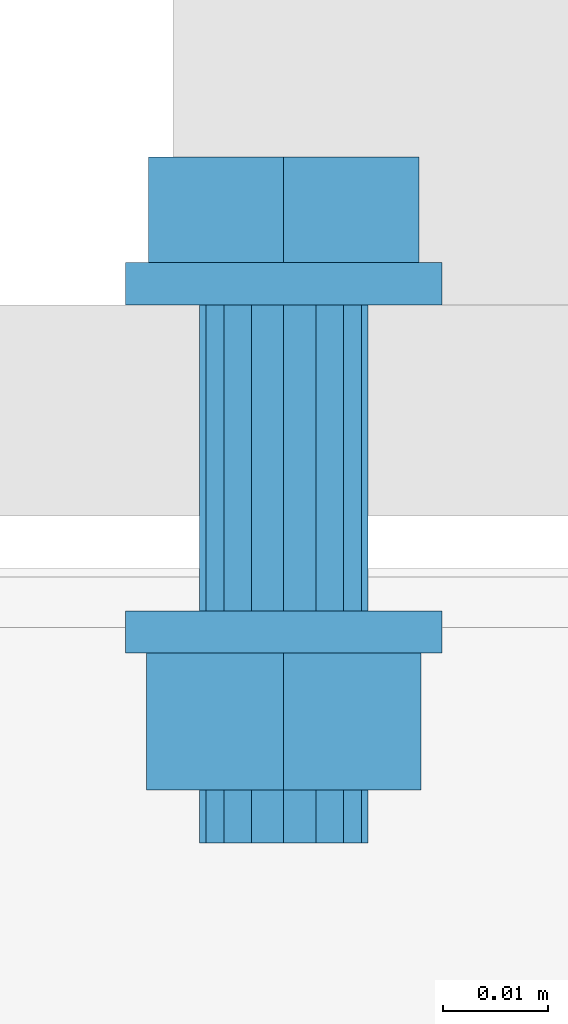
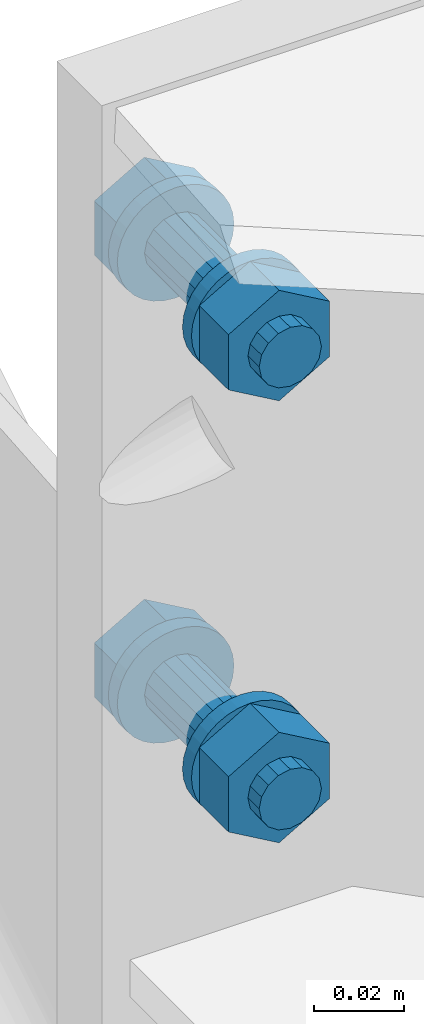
# One storey, part 14 of 21: 2 mechanical fasteners.
"""IFC4X3_ADD2 building model written with IfcOpenShell, lengths in millimetres."""

from ifc_helpers import new_model, entity, si_unit, converted_unit, derived_unit, direction, frame, origin, place, context, project, spatial, faceted_brep, element, save


model = new_model("IFC4X3_ADD2")

# Units and contexts
model_context = context("Model", 3, precision=0.01, world=origin(), true_north=direction((6.123233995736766e-17, 1.0)))
plan_context = context("Plan", 3, precision=0.01, world=origin(), true_north=direction((6.123233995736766e-17, 1.0)))
ifc_project = project(units=[si_unit("LENGTHUNIT", "METRE", prefix="MILLI"), converted_unit("PLANEANGLEUNIT", "DEGREE", entity("IfcPlaneAngleMeasure", 0.017453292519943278), si_unit("PLANEANGLEUNIT", "RADIAN"), dimensions=[0, 0, 0, 0, 0, 0, 0]), si_unit("AREAUNIT", "SQUARE_METRE"), si_unit("VOLUMEUNIT", "CUBIC_METRE"), derived_unit("THERMALTRANSMITTANCEUNIT", [(si_unit("MASSUNIT", "GRAM", prefix="KILO"), 1), (si_unit("THERMODYNAMICTEMPERATUREUNIT", "KELVIN"), -1), (si_unit("TIMEUNIT", "SECOND"), -3)]), derived_unit("USERDEFINED", [(si_unit("MASSUNIT", "GRAM", prefix="KILO"), 1), (si_unit("THERMODYNAMICTEMPERATUREUNIT", "KELVIN"), -1), (si_unit("TIMEUNIT", "SECOND"), -2)]), derived_unit("THERMALRESISTANCEUNIT", [(si_unit("MASSUNIT", "GRAM", prefix="KILO"), -1), (si_unit("TIMEUNIT", "SECOND"), 3), (si_unit("THERMODYNAMICTEMPERATUREUNIT", "KELVIN"), 1)]), si_unit("MASSUNIT", "GRAM", prefix="KILO"), derived_unit("MOMENTOFINERTIAUNIT", [(si_unit("LENGTHUNIT", "METRE"), 4)]), derived_unit("LINEARFORCEUNIT", [(si_unit("MASSUNIT", "GRAM", prefix="KILO"), 1), (si_unit("TIMEUNIT", "SECOND"), -2)]), derived_unit("WARPINGCONSTANTUNIT", [(si_unit("LENGTHUNIT", "METRE"), 6)]), si_unit("PRESSUREUNIT", "PASCAL"), derived_unit("MASSDENSITYUNIT", [(si_unit("MASSUNIT", "GRAM", prefix="KILO"), 1), (si_unit("LENGTHUNIT", "METRE"), -3)]), derived_unit("MODULUSOFELASTICITYUNIT", [(si_unit("MASSUNIT", "GRAM", prefix="KILO"), 1), (si_unit("TIMEUNIT", "SECOND"), -2), (si_unit("LENGTHUNIT", "METRE"), -1)]), derived_unit("THERMALEXPANSIONCOEFFICIENTUNIT", [(si_unit("THERMODYNAMICTEMPERATUREUNIT", "KELVIN"), -1)]), derived_unit("VAPORPERMEABILITYUNIT", [(si_unit("LENGTHUNIT", "METRE"), -1), (si_unit("TIMEUNIT", "SECOND"), 1)]), derived_unit("USERDEFINED", [(si_unit("MASSUNIT", "GRAM", prefix="KILO"), 1), (si_unit("TIMEUNIT", "SECOND"), -3), (si_unit("LENGTHUNIT", "METRE"), 3), (si_unit("ELECTRICCURRENTUNIT", "AMPERE"), -2)]), derived_unit("SPECIFICHEATCAPACITYUNIT", [(si_unit("THERMODYNAMICTEMPERATUREUNIT", "KELVIN"), -1), (si_unit("TIMEUNIT", "SECOND"), -2), (si_unit("LENGTHUNIT", "METRE"), 2)]), derived_unit("THERMALCONDUCTANCEUNIT", [(si_unit("MASSUNIT", "GRAM", prefix="KILO"), 1), (si_unit("THERMODYNAMICTEMPERATUREUNIT", "KELVIN"), -1), (si_unit("TIMEUNIT", "SECOND"), -3), (si_unit("LENGTHUNIT", "METRE"), 1)])], contexts=[model_context, plan_context])

# Site, building, storey
site_placement = place(None, origin())
site = spatial("IfcSite", under=ifc_project, at=site_placement, Name="Default", CompositionType="ELEMENT")
building_placement = place(site_placement, origin())
building = spatial("IfcBuilding", under=site, at=building_placement, Name="Complex structure", CompositionType="ELEMENT")
storey_placement = place(building_placement, frame((0.0, 0.0, 3000.0)))
storey = spatial("IfcBuildingStorey", under=building, at=storey_placement, Name="Level 01", CompositionType="ELEMENT", Elevation=3000.0)

# Mechanical fasteners
mechanical_fastener_1_placement = place(storey_placement, frame((0.0, 0.0, -3000.0)))
element("IfcMechanicalFastener", 1, at=mechanical_fastener_1_placement, inside=storey, ObjectType="Bolt#1", NominalDiameter=16.0, NominalLength=55.0, context=model_context, shape_type="Brep", body=[
    faceted_brep([(-5180.026350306, -1182.866703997, 3943.0), (-5180.026350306, -1186.866703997, 3943.0), (-5180.3145711, -1186.866703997, 3940.07364517), (-5180.3145711, -1182.866703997, 3940.07364517), (-5181.168157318, -1186.866703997, 3937.259748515), (-5181.168157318, -1182.866703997, 3937.259748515), (-5182.554306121, -1186.866703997, 3934.666446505), (-5182.554306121, -1182.866703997, 3934.666446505), (-5184.419748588, -1186.866703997, 3932.393398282), (-5184.419748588, -1182.866703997, 3932.393398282), (-5186.692796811, -1186.866703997, 3930.527955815), (-5186.692796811, -1182.866703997, 3930.527955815), (-5189.28609882, -1186.866703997, 3929.141807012), (-5189.28609882, -1182.866703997, 3929.141807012), (-5192.099995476, -1186.866703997, 3928.288220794), (-5192.099995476, -1182.866703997, 3928.288220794), (-5195.026350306, -1186.866703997, 3928.0), (-5195.026350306, -1182.866703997, 3928.0), (-5197.952705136, -1186.866703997, 3928.288220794), (-5197.952705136, -1182.866703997, 3928.288220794), (-5200.766601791, -1186.866703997, 3929.141807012), (-5200.766601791, -1182.866703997, 3929.141807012), (-5203.359903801, -1186.866703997, 3930.527955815), (-5203.359903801, -1182.866703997, 3930.527955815), (-5205.632952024, -1186.866703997, 3932.393398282), (-5205.632952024, -1182.866703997, 3932.393398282), (-5207.49839449, -1186.866703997, 3934.666446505), (-5207.49839449, -1182.866703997, 3934.666446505), (-5208.884543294, -1186.866703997, 3937.259748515), (-5208.884543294, -1182.866703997, 3937.259748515), (-5209.738129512, -1186.866703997, 3940.07364517), (-5209.738129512, -1182.866703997, 3940.07364517), (-5210.026350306, -1186.866703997, 3943.0), (-5210.026350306, -1182.866703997, 3943.0), (-5209.738129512, -1186.866703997, 3945.92635483), (-5209.738129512, -1182.866703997, 3945.92635483), (-5208.884543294, -1186.866703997, 3948.740251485), (-5208.884543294, -1182.866703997, 3948.740251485), (-5207.49839449, -1186.866703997, 3951.333553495), (-5207.49839449, -1182.866703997, 3951.333553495), (-5205.632952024, -1186.866703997, 3953.606601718), (-5205.632952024, -1182.866703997, 3953.606601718), (-5203.359903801, -1186.866703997, 3955.472044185), (-5203.359903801, -1182.866703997, 3955.472044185), (-5200.766601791, -1186.866703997, 3956.858192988), (-5200.766601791, -1182.866703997, 3956.858192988), (-5197.952705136, -1186.866703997, 3957.711779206), (-5197.952705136, -1182.866703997, 3957.711779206), (-5195.026350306, -1186.866703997, 3958.0), (-5195.026350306, -1182.866703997, 3958.0), (-5192.099995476, -1186.866703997, 3957.711779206), (-5192.099995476, -1182.866703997, 3957.711779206), (-5189.28609882, -1186.866703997, 3956.858192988), (-5189.28609882, -1182.866703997, 3956.858192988), (-5186.692796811, -1186.866703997, 3955.472044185), (-5186.692796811, -1182.866703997, 3955.472044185), (-5184.419748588, -1186.866703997, 3953.606601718), (-5184.419748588, -1182.866703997, 3953.606601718), (-5182.554306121, -1186.866703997, 3951.333553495), (-5182.554306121, -1182.866703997, 3951.333553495), (-5181.168157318, -1186.866703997, 3948.740251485), (-5181.168157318, -1182.866703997, 3948.740251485), (-5180.3145711, -1186.866703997, 3945.92635483), (-5180.3145711, -1182.866703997, 3945.92635483)], [[[0, 1, 2, 3]], [[3, 2, 4, 5]], [[5, 4, 6, 7]], [[7, 6, 8, 9]], [[9, 8, 10, 11]], [[11, 10, 12, 13]], [[13, 12, 14, 15]], [[15, 14, 16, 17]], [[17, 16, 18, 19]], [[19, 18, 20, 21]], [[21, 20, 22, 23]], [[23, 22, 24, 25]], [[25, 24, 26, 27]], [[27, 26, 28, 29]], [[29, 28, 30, 31]], [[31, 30, 32, 33]], [[33, 32, 34, 35]], [[35, 34, 36, 37]], [[37, 36, 38, 39]], [[39, 38, 40, 41]], [[41, 40, 42, 43]], [[43, 42, 44, 45]], [[45, 44, 46, 47]], [[47, 46, 48, 49]], [[49, 48, 50, 51]], [[51, 50, 52, 53]], [[53, 52, 54, 55]], [[55, 54, 56, 57]], [[57, 56, 58, 59]], [[59, 58, 60, 61]], [[61, 60, 62, 63]], [[63, 62, 1, 0]], [[0, 3, 5, 7, 9, 11, 13, 15, 17, 19, 21, 23, 25, 27, 29, 31, 33, 35, 37, 39, 41, 43, 45, 47, 49, 51, 53, 55, 57, 59, 61, 63]], [[1, 62, 60, 58, 56, 54, 52, 50, 48, 46, 44, 42, 40, 38, 36, 34, 32, 30, 28, 26, 24, 22, 20, 18, 16, 14, 12, 10, 8, 6, 4, 2]]]),
    faceted_brep([(-5207.826205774, -1182.866703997, 3935.61), (-5207.826205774, -1172.866703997, 3935.61), (-5195.026350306, -1172.866703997, 3928.22), (-5195.026350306, -1182.866703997, 3928.22), (-5182.226494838, -1172.866703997, 3935.61), (-5182.226494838, -1182.866703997, 3935.61), (-5182.226494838, -1172.866703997, 3950.39), (-5182.226494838, -1182.866703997, 3950.39), (-5195.026350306, -1172.866703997, 3957.78), (-5195.026350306, -1182.866703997, 3957.78), (-5207.826205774, -1172.866703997, 3950.39), (-5207.826205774, -1182.866703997, 3950.39)], [[[0, 1, 2, 3]], [[3, 2, 4, 5]], [[5, 4, 6, 7]], [[7, 6, 8, 9]], [[9, 8, 10, 11]], [[11, 10, 1, 0]], [[4, 2, 1, 10, 8, 6]], [[0, 3, 5, 7, 9, 11]]]),
    faceted_brep([(-5187.026350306, -1186.866703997, 3943.0), (-5187.026350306, -1215.866703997, 3943.0), (-5187.635314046, -1215.866703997, 3939.938532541), (-5187.635314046, -1186.866703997, 3939.938532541), (-5189.369496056, -1215.866703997, 3937.343145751), (-5189.369496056, -1186.866703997, 3937.343145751), (-5191.964882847, -1215.866703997, 3935.60896374), (-5191.964882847, -1186.866703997, 3935.60896374), (-5195.026350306, -1215.866703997, 3935.0), (-5195.026350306, -1186.866703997, 3935.0), (-5198.087817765, -1215.866703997, 3935.60896374), (-5198.087817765, -1186.866703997, 3935.60896374), (-5200.683204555, -1215.866703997, 3937.343145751), (-5200.683204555, -1186.866703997, 3937.343145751), (-5202.417386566, -1215.866703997, 3939.938532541), (-5202.417386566, -1186.866703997, 3939.938532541), (-5203.026350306, -1215.866703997, 3943.0), (-5203.026350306, -1186.866703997, 3943.0), (-5202.417386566, -1215.866703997, 3946.061467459), (-5202.417386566, -1186.866703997, 3946.061467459), (-5200.683204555, -1215.866703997, 3948.656854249), (-5200.683204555, -1186.866703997, 3948.656854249), (-5198.087817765, -1215.866703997, 3950.39103626), (-5198.087817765, -1186.866703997, 3950.39103626), (-5195.026350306, -1215.866703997, 3951.0), (-5195.026350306, -1186.866703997, 3951.0), (-5191.964882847, -1215.866703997, 3950.39103626), (-5191.964882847, -1186.866703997, 3950.39103626), (-5189.369496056, -1215.866703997, 3948.656854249), (-5189.369496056, -1186.866703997, 3948.656854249), (-5187.635314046, -1215.866703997, 3946.061467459), (-5187.635314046, -1186.866703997, 3946.061467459)], [[[0, 1, 2, 3]], [[3, 2, 4, 5]], [[5, 4, 6, 7]], [[7, 6, 8, 9]], [[9, 8, 10, 11]], [[11, 10, 12, 13]], [[13, 12, 14, 15]], [[15, 14, 16, 17]], [[17, 16, 18, 19]], [[19, 18, 20, 21]], [[21, 20, 22, 23]], [[23, 22, 24, 25]], [[25, 24, 26, 27]], [[27, 26, 28, 29]], [[29, 28, 30, 31]], [[31, 30, 1, 0]], [[0, 3, 5, 7, 9, 11, 13, 15, 17, 19, 21, 23, 25, 27, 29, 31]], [[1, 30, 28, 26, 24, 22, 20, 18, 16, 14, 12, 10, 8, 6, 4, 2]]]),
    faceted_brep([(-5180.026350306, -1215.866703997, 3943.0), (-5180.026350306, -1219.866703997, 3943.0), (-5180.3145711, -1219.866703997, 3940.07364517), (-5180.3145711, -1215.866703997, 3940.07364517), (-5181.168157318, -1219.866703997, 3937.259748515), (-5181.168157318, -1215.866703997, 3937.259748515), (-5182.554306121, -1219.866703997, 3934.666446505), (-5182.554306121, -1215.866703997, 3934.666446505), (-5184.419748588, -1219.866703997, 3932.393398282), (-5184.419748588, -1215.866703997, 3932.393398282), (-5186.692796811, -1219.866703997, 3930.527955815), (-5186.692796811, -1215.866703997, 3930.527955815), (-5189.28609882, -1219.866703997, 3929.141807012), (-5189.28609882, -1215.866703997, 3929.141807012), (-5192.099995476, -1219.866703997, 3928.288220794), (-5192.099995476, -1215.866703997, 3928.288220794), (-5195.026350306, -1219.866703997, 3928.0), (-5195.026350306, -1215.866703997, 3928.0), (-5197.952705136, -1219.866703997, 3928.288220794), (-5197.952705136, -1215.866703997, 3928.288220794), (-5200.766601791, -1219.866703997, 3929.141807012), (-5200.766601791, -1215.866703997, 3929.141807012), (-5203.359903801, -1219.866703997, 3930.527955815), (-5203.359903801, -1215.866703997, 3930.527955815), (-5205.632952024, -1219.866703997, 3932.393398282), (-5205.632952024, -1215.866703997, 3932.393398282), (-5207.49839449, -1219.866703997, 3934.666446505), (-5207.49839449, -1215.866703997, 3934.666446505), (-5208.884543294, -1219.866703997, 3937.259748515), (-5208.884543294, -1215.866703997, 3937.259748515), (-5209.738129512, -1219.866703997, 3940.07364517), (-5209.738129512, -1215.866703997, 3940.07364517), (-5210.026350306, -1219.866703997, 3943.0), (-5210.026350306, -1215.866703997, 3943.0), (-5209.738129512, -1219.866703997, 3945.92635483), (-5209.738129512, -1215.866703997, 3945.92635483), (-5208.884543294, -1219.866703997, 3948.740251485), (-5208.884543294, -1215.866703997, 3948.740251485), (-5207.49839449, -1219.866703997, 3951.333553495), (-5207.49839449, -1215.866703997, 3951.333553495), (-5205.632952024, -1219.866703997, 3953.606601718), (-5205.632952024, -1215.866703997, 3953.606601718), (-5203.359903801, -1219.866703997, 3955.472044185), (-5203.359903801, -1215.866703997, 3955.472044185), (-5200.766601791, -1219.866703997, 3956.858192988), (-5200.766601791, -1215.866703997, 3956.858192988), (-5197.952705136, -1219.866703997, 3957.711779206), (-5197.952705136, -1215.866703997, 3957.711779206), (-5195.026350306, -1219.866703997, 3958.0), (-5195.026350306, -1215.866703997, 3958.0), (-5192.099995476, -1219.866703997, 3957.711779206), (-5192.099995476, -1215.866703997, 3957.711779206), (-5189.28609882, -1219.866703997, 3956.858192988), (-5189.28609882, -1215.866703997, 3956.858192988), (-5186.692796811, -1219.866703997, 3955.472044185), (-5186.692796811, -1215.866703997, 3955.472044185), (-5184.419748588, -1219.866703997, 3953.606601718), (-5184.419748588, -1215.866703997, 3953.606601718), (-5182.554306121, -1219.866703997, 3951.333553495), (-5182.554306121, -1215.866703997, 3951.333553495), (-5181.168157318, -1219.866703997, 3948.740251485), (-5181.168157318, -1215.866703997, 3948.740251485), (-5180.3145711, -1219.866703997, 3945.92635483), (-5180.3145711, -1215.866703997, 3945.92635483)], [[[0, 1, 2, 3]], [[3, 2, 4, 5]], [[5, 4, 6, 7]], [[7, 6, 8, 9]], [[9, 8, 10, 11]], [[11, 10, 12, 13]], [[13, 12, 14, 15]], [[15, 14, 16, 17]], [[17, 16, 18, 19]], [[19, 18, 20, 21]], [[21, 20, 22, 23]], [[23, 22, 24, 25]], [[25, 24, 26, 27]], [[27, 26, 28, 29]], [[29, 28, 30, 31]], [[31, 30, 32, 33]], [[33, 32, 34, 35]], [[35, 34, 36, 37]], [[37, 36, 38, 39]], [[39, 38, 40, 41]], [[41, 40, 42, 43]], [[43, 42, 44, 45]], [[45, 44, 46, 47]], [[47, 46, 48, 49]], [[49, 48, 50, 51]], [[51, 50, 52, 53]], [[53, 52, 54, 55]], [[55, 54, 56, 57]], [[57, 56, 58, 59]], [[59, 58, 60, 61]], [[61, 60, 62, 63]], [[63, 62, 1, 0]], [[0, 3, 5, 7, 9, 11, 13, 15, 17, 19, 21, 23, 25, 27, 29, 31, 33, 35, 37, 39, 41, 43, 45, 47, 49, 51, 53, 55, 57, 59, 61, 63]], [[1, 62, 60, 58, 56, 54, 52, 50, 48, 46, 44, 42, 40, 38, 36, 34, 32, 30, 28, 26, 24, 22, 20, 18, 16, 14, 12, 10, 8, 6, 4, 2]]]),
    faceted_brep([(-5208.016731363, -1232.866703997, 3935.5), (-5208.016731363, -1219.866703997, 3935.5), (-5195.026350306, -1219.866703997, 3928.0), (-5195.026350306, -1232.866703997, 3928.0), (-5182.035969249, -1219.866703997, 3935.5), (-5182.035969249, -1232.866703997, 3935.5), (-5182.035969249, -1219.866703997, 3950.5), (-5182.035969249, -1232.866703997, 3950.5), (-5195.026350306, -1219.866703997, 3958.0), (-5195.026350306, -1232.866703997, 3958.0), (-5208.016731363, -1219.866703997, 3950.5), (-5208.016731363, -1232.866703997, 3950.5)], [[[0, 1, 2, 3]], [[3, 2, 4, 5]], [[5, 4, 6, 7]], [[7, 6, 8, 9]], [[9, 8, 10, 11]], [[11, 10, 1, 0]], [[4, 2, 1, 10, 8, 6]], [[0, 3, 5, 7, 9, 11]]]),
    faceted_brep([(-5187.026350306, -1232.866703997, 3943.0), (-5187.026350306, -1237.866703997, 3943.0), (-5187.635314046, -1237.866703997, 3939.938532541), (-5187.635314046, -1232.866703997, 3939.938532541), (-5189.369496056, -1237.866703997, 3937.343145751), (-5189.369496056, -1232.866703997, 3937.343145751), (-5191.964882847, -1237.866703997, 3935.60896374), (-5191.964882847, -1232.866703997, 3935.60896374), (-5195.026350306, -1237.866703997, 3935.0), (-5195.026350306, -1232.866703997, 3935.0), (-5198.087817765, -1237.866703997, 3935.60896374), (-5198.087817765, -1232.866703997, 3935.60896374), (-5200.683204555, -1237.866703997, 3937.343145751), (-5200.683204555, -1232.866703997, 3937.343145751), (-5202.417386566, -1237.866703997, 3939.938532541), (-5202.417386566, -1232.866703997, 3939.938532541), (-5203.026350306, -1237.866703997, 3943.0), (-5203.026350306, -1232.866703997, 3943.0), (-5202.417386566, -1237.866703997, 3946.061467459), (-5202.417386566, -1232.866703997, 3946.061467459), (-5200.683204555, -1237.866703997, 3948.656854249), (-5200.683204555, -1232.866703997, 3948.656854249), (-5198.087817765, -1237.866703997, 3950.39103626), (-5198.087817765, -1232.866703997, 3950.39103626), (-5195.026350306, -1237.866703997, 3951.0), (-5195.026350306, -1232.866703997, 3951.0), (-5191.964882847, -1237.866703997, 3950.39103626), (-5191.964882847, -1232.866703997, 3950.39103626), (-5189.369496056, -1237.866703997, 3948.656854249), (-5189.369496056, -1232.866703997, 3948.656854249), (-5187.635314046, -1237.866703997, 3946.061467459), (-5187.635314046, -1232.866703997, 3946.061467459)], [[[0, 1, 2, 3]], [[3, 2, 4, 5]], [[5, 4, 6, 7]], [[7, 6, 8, 9]], [[9, 8, 10, 11]], [[11, 10, 12, 13]], [[13, 12, 14, 15]], [[15, 14, 16, 17]], [[17, 16, 18, 19]], [[19, 18, 20, 21]], [[21, 20, 22, 23]], [[23, 22, 24, 25]], [[25, 24, 26, 27]], [[27, 26, 28, 29]], [[29, 28, 30, 31]], [[31, 30, 1, 0]], [[0, 3, 5, 7, 9, 11, 13, 15, 17, 19, 21, 23, 25, 27, 29, 31]], [[1, 30, 28, 26, 24, 22, 20, 18, 16, 14, 12, 10, 8, 6, 4, 2]]]),
])
mechanical_fastener_2_placement = place(storey_placement, frame((0.0, 0.0, -3000.0)))
element("IfcMechanicalFastener", 2, at=mechanical_fastener_2_placement, inside=storey, ObjectType="Bolt#2", NominalDiameter=16.0, NominalLength=55.0, context=model_context, shape_type="Brep", body=[
    faceted_brep([(-5180.026350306, -1182.866703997, 3823.0), (-5180.026350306, -1186.866703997, 3823.0), (-5180.3145711, -1186.866703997, 3820.07364517), (-5180.3145711, -1182.866703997, 3820.07364517), (-5181.168157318, -1186.866703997, 3817.259748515), (-5181.168157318, -1182.866703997, 3817.259748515), (-5182.554306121, -1186.866703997, 3814.666446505), (-5182.554306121, -1182.866703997, 3814.666446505), (-5184.419748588, -1186.866703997, 3812.393398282), (-5184.419748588, -1182.866703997, 3812.393398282), (-5186.692796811, -1186.866703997, 3810.527955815), (-5186.692796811, -1182.866703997, 3810.527955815), (-5189.28609882, -1186.866703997, 3809.141807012), (-5189.28609882, -1182.866703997, 3809.141807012), (-5192.099995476, -1186.866703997, 3808.288220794), (-5192.099995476, -1182.866703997, 3808.288220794), (-5195.026350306, -1186.866703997, 3808.0), (-5195.026350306, -1182.866703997, 3808.0), (-5197.952705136, -1186.866703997, 3808.288220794), (-5197.952705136, -1182.866703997, 3808.288220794), (-5200.766601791, -1186.866703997, 3809.141807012), (-5200.766601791, -1182.866703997, 3809.141807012), (-5203.359903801, -1186.866703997, 3810.527955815), (-5203.359903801, -1182.866703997, 3810.527955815), (-5205.632952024, -1186.866703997, 3812.393398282), (-5205.632952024, -1182.866703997, 3812.393398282), (-5207.49839449, -1186.866703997, 3814.666446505), (-5207.49839449, -1182.866703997, 3814.666446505), (-5208.884543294, -1186.866703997, 3817.259748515), (-5208.884543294, -1182.866703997, 3817.259748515), (-5209.738129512, -1186.866703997, 3820.07364517), (-5209.738129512, -1182.866703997, 3820.07364517), (-5210.026350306, -1186.866703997, 3823.0), (-5210.026350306, -1182.866703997, 3823.0), (-5209.738129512, -1186.866703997, 3825.92635483), (-5209.738129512, -1182.866703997, 3825.92635483), (-5208.884543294, -1186.866703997, 3828.740251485), (-5208.884543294, -1182.866703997, 3828.740251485), (-5207.49839449, -1186.866703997, 3831.333553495), (-5207.49839449, -1182.866703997, 3831.333553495), (-5205.632952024, -1186.866703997, 3833.606601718), (-5205.632952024, -1182.866703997, 3833.606601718), (-5203.359903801, -1186.866703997, 3835.472044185), (-5203.359903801, -1182.866703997, 3835.472044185), (-5200.766601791, -1186.866703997, 3836.858192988), (-5200.766601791, -1182.866703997, 3836.858192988), (-5197.952705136, -1186.866703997, 3837.711779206), (-5197.952705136, -1182.866703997, 3837.711779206), (-5195.026350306, -1186.866703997, 3838.0), (-5195.026350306, -1182.866703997, 3838.0), (-5192.099995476, -1186.866703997, 3837.711779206), (-5192.099995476, -1182.866703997, 3837.711779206), (-5189.28609882, -1186.866703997, 3836.858192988), (-5189.28609882, -1182.866703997, 3836.858192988), (-5186.692796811, -1186.866703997, 3835.472044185), (-5186.692796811, -1182.866703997, 3835.472044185), (-5184.419748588, -1186.866703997, 3833.606601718), (-5184.419748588, -1182.866703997, 3833.606601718), (-5182.554306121, -1186.866703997, 3831.333553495), (-5182.554306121, -1182.866703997, 3831.333553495), (-5181.168157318, -1186.866703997, 3828.740251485), (-5181.168157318, -1182.866703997, 3828.740251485), (-5180.3145711, -1186.866703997, 3825.92635483), (-5180.3145711, -1182.866703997, 3825.92635483)], [[[0, 1, 2, 3]], [[3, 2, 4, 5]], [[5, 4, 6, 7]], [[7, 6, 8, 9]], [[9, 8, 10, 11]], [[11, 10, 12, 13]], [[13, 12, 14, 15]], [[15, 14, 16, 17]], [[17, 16, 18, 19]], [[19, 18, 20, 21]], [[21, 20, 22, 23]], [[23, 22, 24, 25]], [[25, 24, 26, 27]], [[27, 26, 28, 29]], [[29, 28, 30, 31]], [[31, 30, 32, 33]], [[33, 32, 34, 35]], [[35, 34, 36, 37]], [[37, 36, 38, 39]], [[39, 38, 40, 41]], [[41, 40, 42, 43]], [[43, 42, 44, 45]], [[45, 44, 46, 47]], [[47, 46, 48, 49]], [[49, 48, 50, 51]], [[51, 50, 52, 53]], [[53, 52, 54, 55]], [[55, 54, 56, 57]], [[57, 56, 58, 59]], [[59, 58, 60, 61]], [[61, 60, 62, 63]], [[63, 62, 1, 0]], [[0, 3, 5, 7, 9, 11, 13, 15, 17, 19, 21, 23, 25, 27, 29, 31, 33, 35, 37, 39, 41, 43, 45, 47, 49, 51, 53, 55, 57, 59, 61, 63]], [[1, 62, 60, 58, 56, 54, 52, 50, 48, 46, 44, 42, 40, 38, 36, 34, 32, 30, 28, 26, 24, 22, 20, 18, 16, 14, 12, 10, 8, 6, 4, 2]]]),
    faceted_brep([(-5207.826205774, -1182.866703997, 3815.61), (-5207.826205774, -1172.866703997, 3815.61), (-5195.026350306, -1172.866703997, 3808.22), (-5195.026350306, -1182.866703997, 3808.22), (-5182.226494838, -1172.866703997, 3815.61), (-5182.226494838, -1182.866703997, 3815.61), (-5182.226494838, -1172.866703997, 3830.39), (-5182.226494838, -1182.866703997, 3830.39), (-5195.026350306, -1172.866703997, 3837.78), (-5195.026350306, -1182.866703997, 3837.78), (-5207.826205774, -1172.866703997, 3830.39), (-5207.826205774, -1182.866703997, 3830.39)], [[[0, 1, 2, 3]], [[3, 2, 4, 5]], [[5, 4, 6, 7]], [[7, 6, 8, 9]], [[9, 8, 10, 11]], [[11, 10, 1, 0]], [[4, 2, 1, 10, 8, 6]], [[0, 3, 5, 7, 9, 11]]]),
    faceted_brep([(-5187.026350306, -1186.866703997, 3823.0), (-5187.026350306, -1215.866703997, 3823.0), (-5187.635314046, -1215.866703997, 3819.938532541), (-5187.635314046, -1186.866703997, 3819.938532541), (-5189.369496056, -1215.866703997, 3817.343145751), (-5189.369496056, -1186.866703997, 3817.343145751), (-5191.964882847, -1215.866703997, 3815.60896374), (-5191.964882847, -1186.866703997, 3815.60896374), (-5195.026350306, -1215.866703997, 3815.0), (-5195.026350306, -1186.866703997, 3815.0), (-5198.087817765, -1215.866703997, 3815.60896374), (-5198.087817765, -1186.866703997, 3815.60896374), (-5200.683204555, -1215.866703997, 3817.343145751), (-5200.683204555, -1186.866703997, 3817.343145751), (-5202.417386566, -1215.866703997, 3819.938532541), (-5202.417386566, -1186.866703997, 3819.938532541), (-5203.026350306, -1215.866703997, 3823.0), (-5203.026350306, -1186.866703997, 3823.0), (-5202.417386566, -1215.866703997, 3826.061467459), (-5202.417386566, -1186.866703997, 3826.061467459), (-5200.683204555, -1215.866703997, 3828.656854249), (-5200.683204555, -1186.866703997, 3828.656854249), (-5198.087817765, -1215.866703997, 3830.39103626), (-5198.087817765, -1186.866703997, 3830.39103626), (-5195.026350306, -1215.866703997, 3831.0), (-5195.026350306, -1186.866703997, 3831.0), (-5191.964882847, -1215.866703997, 3830.39103626), (-5191.964882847, -1186.866703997, 3830.39103626), (-5189.369496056, -1215.866703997, 3828.656854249), (-5189.369496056, -1186.866703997, 3828.656854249), (-5187.635314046, -1215.866703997, 3826.061467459), (-5187.635314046, -1186.866703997, 3826.061467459)], [[[0, 1, 2, 3]], [[3, 2, 4, 5]], [[5, 4, 6, 7]], [[7, 6, 8, 9]], [[9, 8, 10, 11]], [[11, 10, 12, 13]], [[13, 12, 14, 15]], [[15, 14, 16, 17]], [[17, 16, 18, 19]], [[19, 18, 20, 21]], [[21, 20, 22, 23]], [[23, 22, 24, 25]], [[25, 24, 26, 27]], [[27, 26, 28, 29]], [[29, 28, 30, 31]], [[31, 30, 1, 0]], [[0, 3, 5, 7, 9, 11, 13, 15, 17, 19, 21, 23, 25, 27, 29, 31]], [[1, 30, 28, 26, 24, 22, 20, 18, 16, 14, 12, 10, 8, 6, 4, 2]]]),
    faceted_brep([(-5180.026350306, -1215.866703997, 3823.0), (-5180.026350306, -1219.866703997, 3823.0), (-5180.3145711, -1219.866703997, 3820.07364517), (-5180.3145711, -1215.866703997, 3820.07364517), (-5181.168157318, -1219.866703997, 3817.259748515), (-5181.168157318, -1215.866703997, 3817.259748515), (-5182.554306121, -1219.866703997, 3814.666446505), (-5182.554306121, -1215.866703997, 3814.666446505), (-5184.419748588, -1219.866703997, 3812.393398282), (-5184.419748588, -1215.866703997, 3812.393398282), (-5186.692796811, -1219.866703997, 3810.527955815), (-5186.692796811, -1215.866703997, 3810.527955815), (-5189.28609882, -1219.866703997, 3809.141807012), (-5189.28609882, -1215.866703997, 3809.141807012), (-5192.099995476, -1219.866703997, 3808.288220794), (-5192.099995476, -1215.866703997, 3808.288220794), (-5195.026350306, -1219.866703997, 3808.0), (-5195.026350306, -1215.866703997, 3808.0), (-5197.952705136, -1219.866703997, 3808.288220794), (-5197.952705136, -1215.866703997, 3808.288220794), (-5200.766601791, -1219.866703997, 3809.141807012), (-5200.766601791, -1215.866703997, 3809.141807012), (-5203.359903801, -1219.866703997, 3810.527955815), (-5203.359903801, -1215.866703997, 3810.527955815), (-5205.632952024, -1219.866703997, 3812.393398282), (-5205.632952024, -1215.866703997, 3812.393398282), (-5207.49839449, -1219.866703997, 3814.666446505), (-5207.49839449, -1215.866703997, 3814.666446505), (-5208.884543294, -1219.866703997, 3817.259748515), (-5208.884543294, -1215.866703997, 3817.259748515), (-5209.738129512, -1219.866703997, 3820.07364517), (-5209.738129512, -1215.866703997, 3820.07364517), (-5210.026350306, -1219.866703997, 3823.0), (-5210.026350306, -1215.866703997, 3823.0), (-5209.738129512, -1219.866703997, 3825.92635483), (-5209.738129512, -1215.866703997, 3825.92635483), (-5208.884543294, -1219.866703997, 3828.740251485), (-5208.884543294, -1215.866703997, 3828.740251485), (-5207.49839449, -1219.866703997, 3831.333553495), (-5207.49839449, -1215.866703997, 3831.333553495), (-5205.632952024, -1219.866703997, 3833.606601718), (-5205.632952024, -1215.866703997, 3833.606601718), (-5203.359903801, -1219.866703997, 3835.472044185), (-5203.359903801, -1215.866703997, 3835.472044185), (-5200.766601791, -1219.866703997, 3836.858192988), (-5200.766601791, -1215.866703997, 3836.858192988), (-5197.952705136, -1219.866703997, 3837.711779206), (-5197.952705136, -1215.866703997, 3837.711779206), (-5195.026350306, -1219.866703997, 3838.0), (-5195.026350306, -1215.866703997, 3838.0), (-5192.099995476, -1219.866703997, 3837.711779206), (-5192.099995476, -1215.866703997, 3837.711779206), (-5189.28609882, -1219.866703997, 3836.858192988), (-5189.28609882, -1215.866703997, 3836.858192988), (-5186.692796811, -1219.866703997, 3835.472044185), (-5186.692796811, -1215.866703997, 3835.472044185), (-5184.419748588, -1219.866703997, 3833.606601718), (-5184.419748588, -1215.866703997, 3833.606601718), (-5182.554306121, -1219.866703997, 3831.333553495), (-5182.554306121, -1215.866703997, 3831.333553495), (-5181.168157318, -1219.866703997, 3828.740251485), (-5181.168157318, -1215.866703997, 3828.740251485), (-5180.3145711, -1219.866703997, 3825.92635483), (-5180.3145711, -1215.866703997, 3825.92635483)], [[[0, 1, 2, 3]], [[3, 2, 4, 5]], [[5, 4, 6, 7]], [[7, 6, 8, 9]], [[9, 8, 10, 11]], [[11, 10, 12, 13]], [[13, 12, 14, 15]], [[15, 14, 16, 17]], [[17, 16, 18, 19]], [[19, 18, 20, 21]], [[21, 20, 22, 23]], [[23, 22, 24, 25]], [[25, 24, 26, 27]], [[27, 26, 28, 29]], [[29, 28, 30, 31]], [[31, 30, 32, 33]], [[33, 32, 34, 35]], [[35, 34, 36, 37]], [[37, 36, 38, 39]], [[39, 38, 40, 41]], [[41, 40, 42, 43]], [[43, 42, 44, 45]], [[45, 44, 46, 47]], [[47, 46, 48, 49]], [[49, 48, 50, 51]], [[51, 50, 52, 53]], [[53, 52, 54, 55]], [[55, 54, 56, 57]], [[57, 56, 58, 59]], [[59, 58, 60, 61]], [[61, 60, 62, 63]], [[63, 62, 1, 0]], [[0, 3, 5, 7, 9, 11, 13, 15, 17, 19, 21, 23, 25, 27, 29, 31, 33, 35, 37, 39, 41, 43, 45, 47, 49, 51, 53, 55, 57, 59, 61, 63]], [[1, 62, 60, 58, 56, 54, 52, 50, 48, 46, 44, 42, 40, 38, 36, 34, 32, 30, 28, 26, 24, 22, 20, 18, 16, 14, 12, 10, 8, 6, 4, 2]]]),
    faceted_brep([(-5208.016731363, -1232.866703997, 3815.5), (-5208.016731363, -1219.866703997, 3815.5), (-5195.026350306, -1219.866703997, 3808.0), (-5195.026350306, -1232.866703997, 3808.0), (-5182.035969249, -1219.866703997, 3815.5), (-5182.035969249, -1232.866703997, 3815.5), (-5182.035969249, -1219.866703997, 3830.5), (-5182.035969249, -1232.866703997, 3830.5), (-5195.026350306, -1219.866703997, 3838.0), (-5195.026350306, -1232.866703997, 3838.0), (-5208.016731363, -1219.866703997, 3830.5), (-5208.016731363, -1232.866703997, 3830.5)], [[[0, 1, 2, 3]], [[3, 2, 4, 5]], [[5, 4, 6, 7]], [[7, 6, 8, 9]], [[9, 8, 10, 11]], [[11, 10, 1, 0]], [[4, 2, 1, 10, 8, 6]], [[0, 3, 5, 7, 9, 11]]]),
    faceted_brep([(-5187.026350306, -1232.866703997, 3823.0), (-5187.026350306, -1237.866703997, 3823.0), (-5187.635314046, -1237.866703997, 3819.938532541), (-5187.635314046, -1232.866703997, 3819.938532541), (-5189.369496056, -1237.866703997, 3817.343145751), (-5189.369496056, -1232.866703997, 3817.343145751), (-5191.964882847, -1237.866703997, 3815.60896374), (-5191.964882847, -1232.866703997, 3815.60896374), (-5195.026350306, -1237.866703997, 3815.0), (-5195.026350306, -1232.866703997, 3815.0), (-5198.087817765, -1237.866703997, 3815.60896374), (-5198.087817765, -1232.866703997, 3815.60896374), (-5200.683204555, -1237.866703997, 3817.343145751), (-5200.683204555, -1232.866703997, 3817.343145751), (-5202.417386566, -1237.866703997, 3819.938532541), (-5202.417386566, -1232.866703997, 3819.938532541), (-5203.026350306, -1237.866703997, 3823.0), (-5203.026350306, -1232.866703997, 3823.0), (-5202.417386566, -1237.866703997, 3826.061467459), (-5202.417386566, -1232.866703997, 3826.061467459), (-5200.683204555, -1237.866703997, 3828.656854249), (-5200.683204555, -1232.866703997, 3828.656854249), (-5198.087817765, -1237.866703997, 3830.39103626), (-5198.087817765, -1232.866703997, 3830.39103626), (-5195.026350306, -1237.866703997, 3831.0), (-5195.026350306, -1232.866703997, 3831.0), (-5191.964882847, -1237.866703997, 3830.39103626), (-5191.964882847, -1232.866703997, 3830.39103626), (-5189.369496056, -1237.866703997, 3828.656854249), (-5189.369496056, -1232.866703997, 3828.656854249), (-5187.635314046, -1237.866703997, 3826.061467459), (-5187.635314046, -1232.866703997, 3826.061467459)], [[[0, 1, 2, 3]], [[3, 2, 4, 5]], [[5, 4, 6, 7]], [[7, 6, 8, 9]], [[9, 8, 10, 11]], [[11, 10, 12, 13]], [[13, 12, 14, 15]], [[15, 14, 16, 17]], [[17, 16, 18, 19]], [[19, 18, 20, 21]], [[21, 20, 22, 23]], [[23, 22, 24, 25]], [[25, 24, 26, 27]], [[27, 26, 28, 29]], [[29, 28, 30, 31]], [[31, 30, 1, 0]], [[0, 3, 5, 7, 9, 11, 13, 15, 17, 19, 21, 23, 25, 27, 29, 31]], [[1, 30, 28, 26, 24, 22, 20, 18, 16, 14, 12, 10, 8, 6, 4, 2]]]),
])

save(model, "model.ifc")
